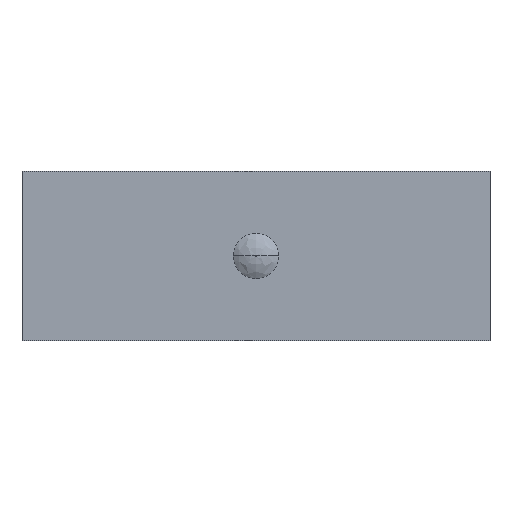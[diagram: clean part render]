
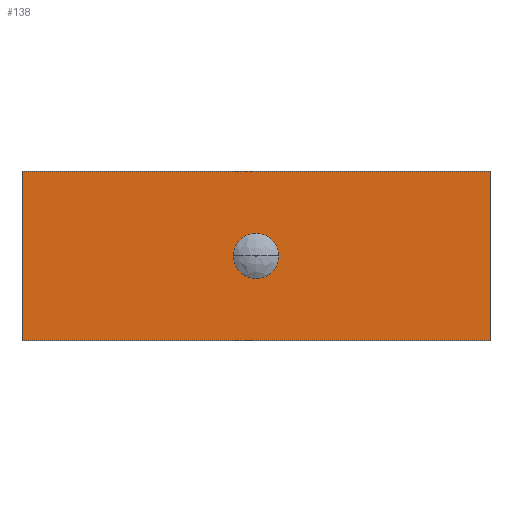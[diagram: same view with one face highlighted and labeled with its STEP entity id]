
A CAD part, top view. The second image highlights one B-rep face of the part: STEP entity #138.
In plain terms, the highlighted planar face has unit normal (0, 0, 1).
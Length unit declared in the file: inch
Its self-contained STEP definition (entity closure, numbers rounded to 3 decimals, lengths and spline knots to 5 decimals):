
#24=CARTESIAN_POINT('',(7.12,0.361,20.));
#25=VERTEX_POINT('',#24);
#34=CARTESIAN_POINT('',(8.12,0.361,20.));
#35=VERTEX_POINT('',#34);
#36=CARTESIAN_POINT('',(10.76819,0.361,20.));
#37=DIRECTION('',(-1.,0.,0.));
#38=VECTOR('',#37,1.);
#39=LINE('',#36,#38);
#40=EDGE_CURVE('',#35,#25,#39,.T.);
#65=CARTESIAN_POINT('',(8.12,-0.00096,20.));
#66=VERTEX_POINT('',#65);
#67=CARTESIAN_POINT('',(8.12,20.52859,20.));
#68=DIRECTION('',(0.,1.,0.));
#69=VECTOR('',#68,1.);
#70=LINE('',#67,#69);
#71=EDGE_CURVE('',#66,#35,#70,.T.);
#95=ORIENTED_EDGE('',*,*,#40,.T.);
#96=CARTESIAN_POINT('',(7.12,-0.00096,20.));
#97=VERTEX_POINT('',#96);
#98=CARTESIAN_POINT('',(7.12,26.8665,20.));
#99=DIRECTION('',(0.,-1.,0.));
#100=VECTOR('',#99,1.);
#101=LINE('',#98,#100);
#102=EDGE_CURVE('',#25,#97,#101,.T.);
#103=ORIENTED_EDGE('',*,*,#102,.T.);
#104=CARTESIAN_POINT('',(322.13766,-0.00096,20.));
#105=DIRECTION('',(1.,0.,0.));
#106=VECTOR('',#105,1.);
#107=LINE('',#104,#106);
#108=EDGE_CURVE('',#97,#66,#107,.T.);
#109=ORIENTED_EDGE('',*,*,#108,.T.);
#110=ORIENTED_EDGE('',*,*,#71,.T.);
#111=EDGE_LOOP('',(#95,#103,#109,#110));
#112=FACE_OUTER_BOUND('',#111,.T.);
#113=CARTESIAN_POINT('',(7.57158,0.18,20.));
#114=VERTEX_POINT('',#113);
#115=CARTESIAN_POINT('',(7.66842,0.18,20.));
#116=VERTEX_POINT('',#115);
#117=CARTESIAN_POINT('',(7.62,0.18,20.));
#118=DIRECTION('',(0.,0.,-1.));
#119=DIRECTION('',(-1.,0.,0.));
#120=AXIS2_PLACEMENT_3D('',#117,#118,#119);
#121=CIRCLE('',#120,0.04842);
#122=EDGE_CURVE('',#114,#116,#121,.T.);
#123=ORIENTED_EDGE('',*,*,#122,.T.);
#124=CARTESIAN_POINT('',(7.62,0.18,20.));
#125=DIRECTION('',(0.,0.,-1.));
#126=DIRECTION('',(1.,0.,0.));
#127=AXIS2_PLACEMENT_3D('',#124,#125,#126);
#128=CIRCLE('',#127,0.04842);
#129=EDGE_CURVE('',#116,#114,#128,.T.);
#130=ORIENTED_EDGE('',*,*,#129,.T.);
#131=EDGE_LOOP('',(#123,#130));
#132=FACE_BOUND('',#131,.T.);
#133=CARTESIAN_POINT('',(0.,2.,20.));
#134=DIRECTION('',(0.,0.,1.));
#135=DIRECTION('',(1.,0.,0.));
#136=AXIS2_PLACEMENT_3D('',#133,#134,#135);
#137=PLANE('',#136);
#138=ADVANCED_FACE('',(#112,#132),#137,.T.);
